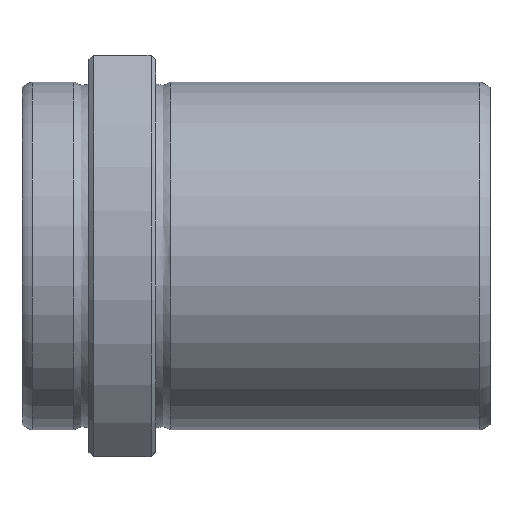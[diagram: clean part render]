
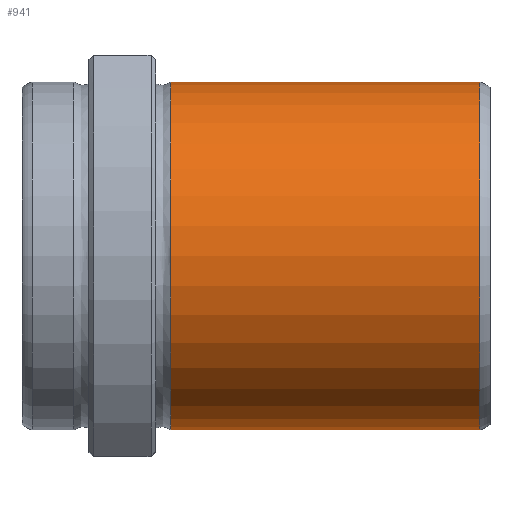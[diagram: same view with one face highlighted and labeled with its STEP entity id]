
A CAD part, top view. The second image highlights one B-rep face of the part: STEP entity #941.
In plain terms, the highlighted cylindrical face has radius 26 mm (diameter 52 mm), a full revolution.
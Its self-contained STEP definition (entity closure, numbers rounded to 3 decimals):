
#907=CARTESIAN_POINT('',(68.502,0.0,26.));
#908=VERTEX_POINT('',#907);
#909=CARTESIAN_POINT('',(68.502,0.0,0.0));
#910=DIRECTION('',(-1.0,0.0,0.0));
#911=DIRECTION('',(0.0,0.0,1.0));
#912=AXIS2_PLACEMENT_3D('',#909,#910,#911);
#913=CIRCLE('',#912,26.);
#914=EDGE_CURVE('',#908,#908,#913,.T.);
#922=CARTESIAN_POINT('',(45.362,0.0,0.0));
#923=DIRECTION('',(-1.0,0.0,0.0));
#924=DIRECTION('',(0.0,0.0,1.0));
#925=AXIS2_PLACEMENT_3D('',#922,#923,#924);
#926=CYLINDRICAL_SURFACE('',#925,26.);
#927=CARTESIAN_POINT('',(22.223,0.0,26.));
#928=VERTEX_POINT('',#927);
#929=CARTESIAN_POINT('',(22.223,0.0,0.0));
#930=DIRECTION('',(-1.0,0.0,0.0));
#931=DIRECTION('',(0.0,0.0,1.0));
#932=AXIS2_PLACEMENT_3D('',#929,#930,#931);
#933=CIRCLE('',#932,26.);
#934=EDGE_CURVE('',#928,#928,#933,.T.);
#935=ORIENTED_EDGE('',*,*,#934,.F.);
#936=EDGE_LOOP('',(#935));
#937=FACE_OUTER_BOUND('',#936,.T.);
#938=ORIENTED_EDGE('',*,*,#914,.T.);
#939=EDGE_LOOP('',(#938));
#940=FACE_BOUND('',#939,.T.);
#941=ADVANCED_FACE('',(#937,#940),#926,.T.);
